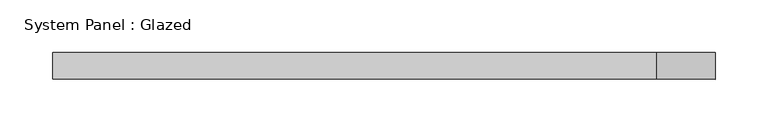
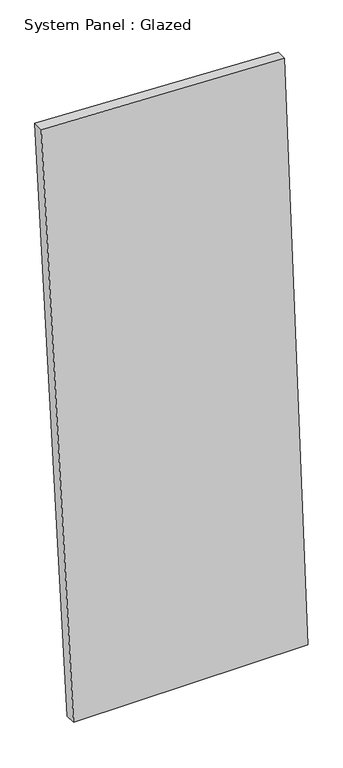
"""IFC4 building model written with IfcOpenShell, lengths in millimetres: plate geometry, System Panel : Glazed."""

from ifc_helpers import new_model, si_unit, frame, origin, place, context, project, spatial, polyline, outline, extrude, source, transform, mapped, element, save


def system_panel_glazed_e9c23bf2(model_context):
    return source(origin(), model_context, "Body", "SweptSolid", [
        extrude(outline(polyline([(0.0, -238.1193057), (0.0, 314.4278137), (1477.90739, 259.03108), (1501.4863613, -314.4278137), (0.0, -238.1193057)])), frame((0.0, -44.45, 0.0), z_axis=(0.0, 1.0, 0.0), x_axis=(0.0, 0.0, 1.0)), (0.0, 0.0, 1.0), 25.4),
    ])


if __name__ == "__main__":
    model = new_model("IFC4")
    model_context = context("Model", 3, world=origin())
    ifc_project = project(units=[si_unit("LENGTHUNIT", "METRE", prefix="MILLI")], contexts=[model_context])
    site = spatial("IfcSite", under=ifc_project)
    building = spatial("IfcBuilding", under=site)
    placement = place(None, origin())
    system_panel_glazed_shape = system_panel_glazed_e9c23bf2(model_context)
    element("IfcPlate", 1, ObjectType="System Panel : Glazed", at=placement, inside=building, context=model_context, shape_type="MappedRepresentation", body=[
        mapped(system_panel_glazed_shape, transform((0.0, 0.0, 0.0), x_axis=(1.0, 0.0, 0.0), y_axis=(0.0, 1.0, 0.0), z_axis=(0.0, 0.0, 1.0))),
    ])
    save(model, "model.ifc")
